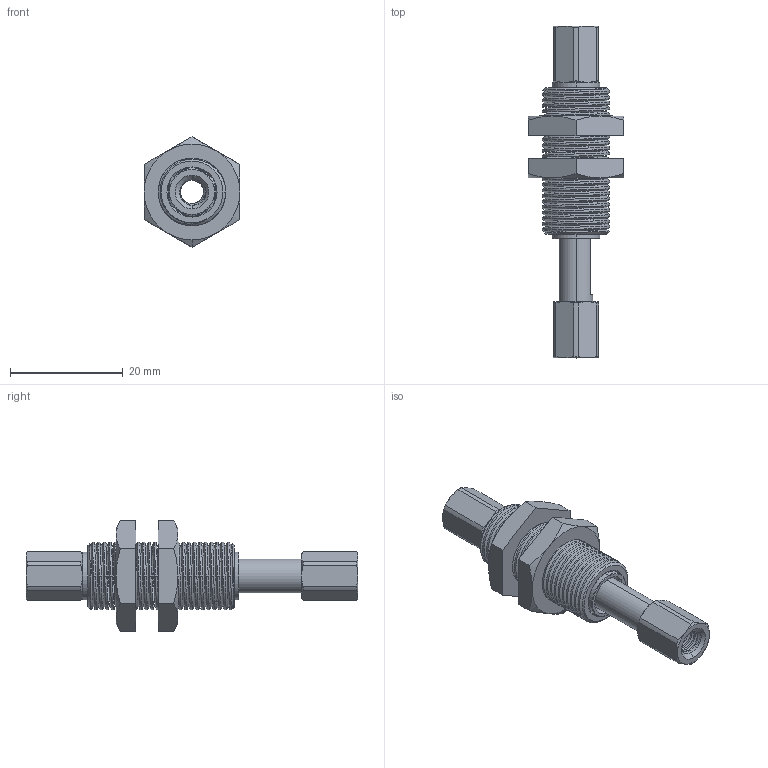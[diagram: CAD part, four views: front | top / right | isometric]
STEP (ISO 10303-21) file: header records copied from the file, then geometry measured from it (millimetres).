
FILE_DESCRIPTION (( 'STEP AP203' ), '1' );
FILE_NAME ('bln04-4bt10m12nk55-m5b_asm〞〞TOC.STEP', '2024-10-17T03:05:04', ( '' ), ( '' ), 'SwSTEP 2.0', 'SolidWorks 2022', '' );
FILE_SCHEMA (( 'CONFIG_CONTROL_DESIGN' ));
Length unit declared in the file: millimetre
Products named in the file (1): bln04-4bt10m12nk55-m5b_asm——TOC
Bounding box: 17 x 59 x 19.63 mm (x, y, z)
Surface area: 3750.9 mm2 (no closed solid volume)
Topology: 0 solids, 9 shells, 212 faces, 609 edges, 405 vertices
Faces by surface type: cone 80, cylinder 76, plane 38, bspline 18
Entity records: 14390 total; most frequent: CARTESIAN_POINT 9377, ORIENTED_EDGE 1069, DIRECTION 855, EDGE_CURVE 609, VERTEX_POINT 405, AXIS2_PLACEMENT_3D 348, B_SPLINE_CURVE_WITH_KNOTS 297, EDGE_LOOP 223
